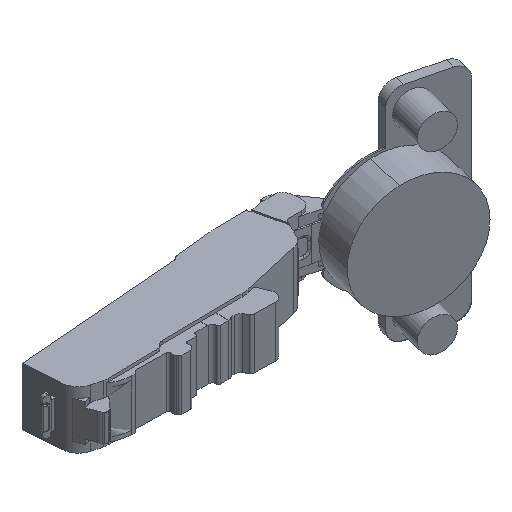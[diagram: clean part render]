
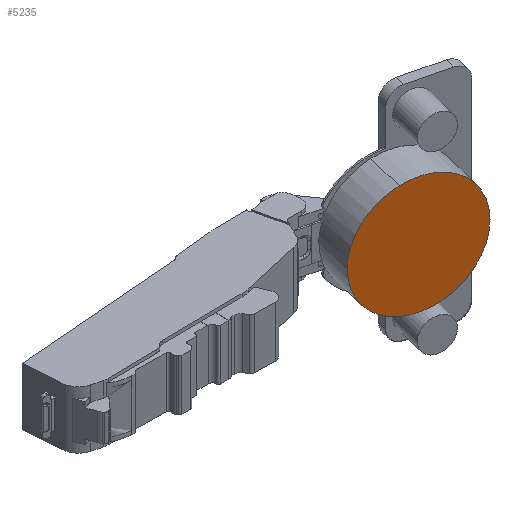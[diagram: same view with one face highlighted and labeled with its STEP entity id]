
A CAD part, isometric view. The second image highlights one B-rep face of the part: STEP entity #5235.
In plain terms, the highlighted planar face has unit normal (-0.242, -0.97, 0).
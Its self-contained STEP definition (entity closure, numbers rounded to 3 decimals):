
#146 = EDGE_CURVE ( 'NONE', #2339, #14255, #3524, .T. ) ;
#819 = VECTOR ( 'NONE', #11894, 1000. ) ;
#1987 = DIRECTION ( 'NONE',  ( -0.242, -0.97, 0. ) ) ;
#2019 = ORIENTED_EDGE ( 'NONE', *, *, #11123, .T. ) ;
#2121 = DIRECTION ( 'NONE',  ( 0.97, -0.242, 0. ) ) ;
#2339 = VERTEX_POINT ( 'NONE', #13664 ) ;
#2413 = AXIS2_PLACEMENT_3D ( 'NONE', #6815, #5841, #2445 ) ;
#2445 = DIRECTION ( 'NONE',  ( 0.97, -0.242, 0. ) ) ;
#2507 = VECTOR ( 'NONE', #8883, 1000. ) ;
#3213 = EDGE_CURVE ( 'NONE', #14255, #12369, #6783, .T. ) ;
#3294 = CARTESIAN_POINT ( 'NONE',  ( 18.208, 7.984, 0.967 ) ) ;
#3524 = LINE ( 'NONE', #10000, #2507 ) ;
#3561 = AXIS2_PLACEMENT_3D ( 'NONE', #7164, #11693, #10498 ) ;
#3775 = VERTEX_POINT ( 'NONE', #9510 ) ;
#3935 = CARTESIAN_POINT ( 'NONE',  ( 18.208, 7.984, 0.967 ) ) ;
#4196 = DIRECTION ( 'NONE',  ( -0.242, -0.97, 0. ) ) ;
#4269 = ORIENTED_EDGE ( 'NONE', *, *, #146, .T. ) ;
#4607 = ORIENTED_EDGE ( 'NONE', *, *, #8017, .T. ) ;
#5117 = CIRCLE ( 'NONE', #12937, 17.4 ) ;
#5235 = ADVANCED_FACE ( 'NONE', ( #12793 ), #8055, .F. ) ;
#5360 = AXIS2_PLACEMENT_3D ( 'NONE', #3294, #4196, #2121 ) ;
#5841 = DIRECTION ( 'NONE',  ( -0.242, -0.97, 0. ) ) ;
#6379 = ORIENTED_EDGE ( 'NONE', *, *, #3213, .T. ) ;
#6719 = CARTESIAN_POINT ( 'NONE',  ( 13.607, 9.131, -15.775 ) ) ;
#6783 = CIRCLE ( 'NONE', #5360, 17.4 ) ;
#6815 = CARTESIAN_POINT ( 'NONE',  ( 18.208, 7.984, 0.967 ) ) ;
#7164 = CARTESIAN_POINT ( 'NONE',  ( 30.143, 5.008, -4.597 ) ) ;
#8017 = EDGE_CURVE ( 'NONE', #10641, #3775, #9752, .T. ) ;
#8055 = PLANE ( 'NONE',  #3561 ) ;
#8189 = CARTESIAN_POINT ( 'NONE',  ( 13.607, 9.131, -4.597 ) ) ;
#8342 = CARTESIAN_POINT ( 'NONE',  ( 13.607, 9.131, 17.708 ) ) ;
#8408 = VERTEX_POINT ( 'NONE', #6719 ) ;
#8441 = CARTESIAN_POINT ( 'NONE',  ( 1.325, 12.193, 0.967 ) ) ;
#8883 = DIRECTION ( 'NONE',  ( 0., 0., -1. ) ) ;
#9450 = LINE ( 'NONE', #8189, #819 ) ;
#9510 = CARTESIAN_POINT ( 'NONE',  ( 35.093, 3.774, 0.967 ) ) ;
#9644 = DIRECTION ( 'NONE',  ( -0.242, -0.97, 0. ) ) ;
#9742 = ORIENTED_EDGE ( 'NONE', *, *, #13982, .T. ) ;
#9752 = CIRCLE ( 'NONE', #2413, 17.401 ) ;
#10000 = CARTESIAN_POINT ( 'NONE',  ( 13.607, 9.131, -4.597 ) ) ;
#10082 = EDGE_CURVE ( 'NONE', #8408, #10641, #9450, .T. ) ;
#10498 = DIRECTION ( 'NONE',  ( 0., 0., -1. ) ) ;
#10530 = DIRECTION ( 'NONE',  ( 0.97, -0.242, 0. ) ) ;
#10534 = AXIS2_PLACEMENT_3D ( 'NONE', #3935, #9644, #10530 ) ;
#10594 = EDGE_LOOP ( 'NONE', ( #4269, #6379, #9742, #10738, #4607, #2019 ) ) ;
#10641 = VERTEX_POINT ( 'NONE', #11254 ) ;
#10738 = ORIENTED_EDGE ( 'NONE', *, *, #10082, .T. ) ;
#11123 = EDGE_CURVE ( 'NONE', #3775, #2339, #14315, .T. ) ;
#11254 = CARTESIAN_POINT ( 'NONE',  ( 13.607, 9.131, -15.776 ) ) ;
#11693 = DIRECTION ( 'NONE',  ( 0.242, 0.97, 0. ) ) ;
#11894 = DIRECTION ( 'NONE',  ( 0., 0., -1. ) ) ;
#12060 = CARTESIAN_POINT ( 'NONE',  ( 18.208, 7.984, 0.967 ) ) ;
#12369 = VERTEX_POINT ( 'NONE', #8441 ) ;
#12793 = FACE_OUTER_BOUND ( 'NONE', #10594, .T. ) ;
#12937 = AXIS2_PLACEMENT_3D ( 'NONE', #12060, #1987, #13458 ) ;
#13458 = DIRECTION ( 'NONE',  ( 0.97, -0.242, 0. ) ) ;
#13664 = CARTESIAN_POINT ( 'NONE',  ( 13.607, 9.131, 17.71 ) ) ;
#13982 = EDGE_CURVE ( 'NONE', #12369, #8408, #5117, .T. ) ;
#14255 = VERTEX_POINT ( 'NONE', #8342 ) ;
#14315 = CIRCLE ( 'NONE', #10534, 17.401 ) ;
